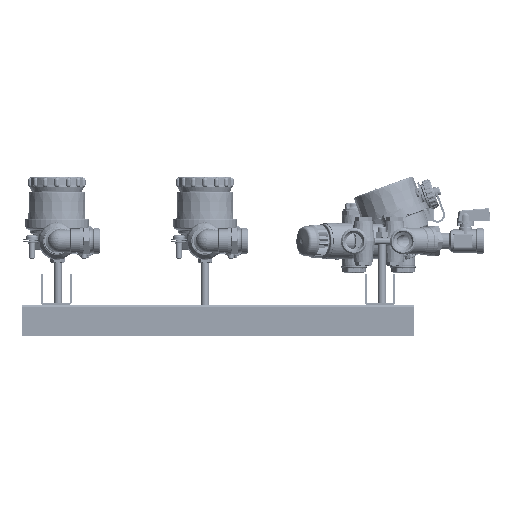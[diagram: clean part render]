
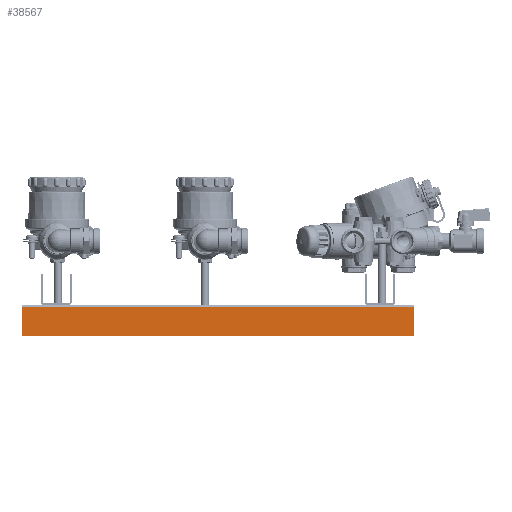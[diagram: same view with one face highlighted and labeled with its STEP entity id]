
A CAD part, front view. The second image highlights one B-rep face of the part: STEP entity #38567.
In plain terms, the highlighted planar face has unit normal (0, -1, 0) as drawn and (1, 0, 0) by its records, which use the part's own axes.
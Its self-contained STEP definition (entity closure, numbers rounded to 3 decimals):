
#38567=ADVANCED_FACE('',(#212643),#212645,.T.);
#212643=FACE_BOUND('',#212644,.T.);
#212644=EDGE_LOOP('',(#313543,#313544,#313545,#313546));
#212645=PLANE('',#212646);
#212646=AXIS2_PLACEMENT_3D('',#212647,#212648,#212649);
#212647=CARTESIAN_POINT('',(15.5,-400.,-2.5));
#212648=DIRECTION('',(1.,0.,0.));
#212649=DIRECTION('',(0.,0.,-1.));
#313543=ORIENTED_EDGE('',*,*,#365203,.T.);
#313544=ORIENTED_EDGE('',*,*,#365231,.T.);
#313545=ORIENTED_EDGE('',*,*,#365221,.F.);
#313546=ORIENTED_EDGE('',*,*,#365228,.F.);
#365203=EDGE_CURVE('',#431030,#431027,#431031,.T.);
#365221=EDGE_CURVE('',#431059,#431061,#431062,.T.);
#365228=EDGE_CURVE('',#431030,#431059,#431069,.T.);
#365231=EDGE_CURVE('',#431027,#431061,#431072,.T.);
#431027=VERTEX_POINT('',#718454);
#431030=VERTEX_POINT('',#718459);
#431031=LINE('',#718460,#718461);
#431059=VERTEX_POINT('',#718529);
#431061=VERTEX_POINT('',#718534);
#431062=LINE('',#718535,#718536);
#431069=LINE('',#718556,#718557);
#431072=LINE('',#718565,#718566);
#718454=CARTESIAN_POINT('',(15.5,-400.,-31.2));
#718459=CARTESIAN_POINT('',(15.5,-400.,-2.5));
#718460=CARTESIAN_POINT('',(15.5,-400.,-2.5));
#718461=VECTOR('',#718462,1.);
#718462=DIRECTION('',(0.,0.,-1.));
#718529=CARTESIAN_POINT('',(15.5,0.,-2.5));
#718534=CARTESIAN_POINT('',(15.5,0.,-31.2));
#718535=CARTESIAN_POINT('',(15.5,0.,-2.5));
#718536=VECTOR('',#718537,1.);
#718537=DIRECTION('',(0.,0.,-1.));
#718556=CARTESIAN_POINT('',(15.5,-400.,-2.5));
#718557=VECTOR('',#718558,1.);
#718558=DIRECTION('',(0.,1.,0.));
#718565=CARTESIAN_POINT('',(15.5,-400.,-31.2));
#718566=VECTOR('',#718567,1.);
#718567=DIRECTION('',(0.,1.,0.));
